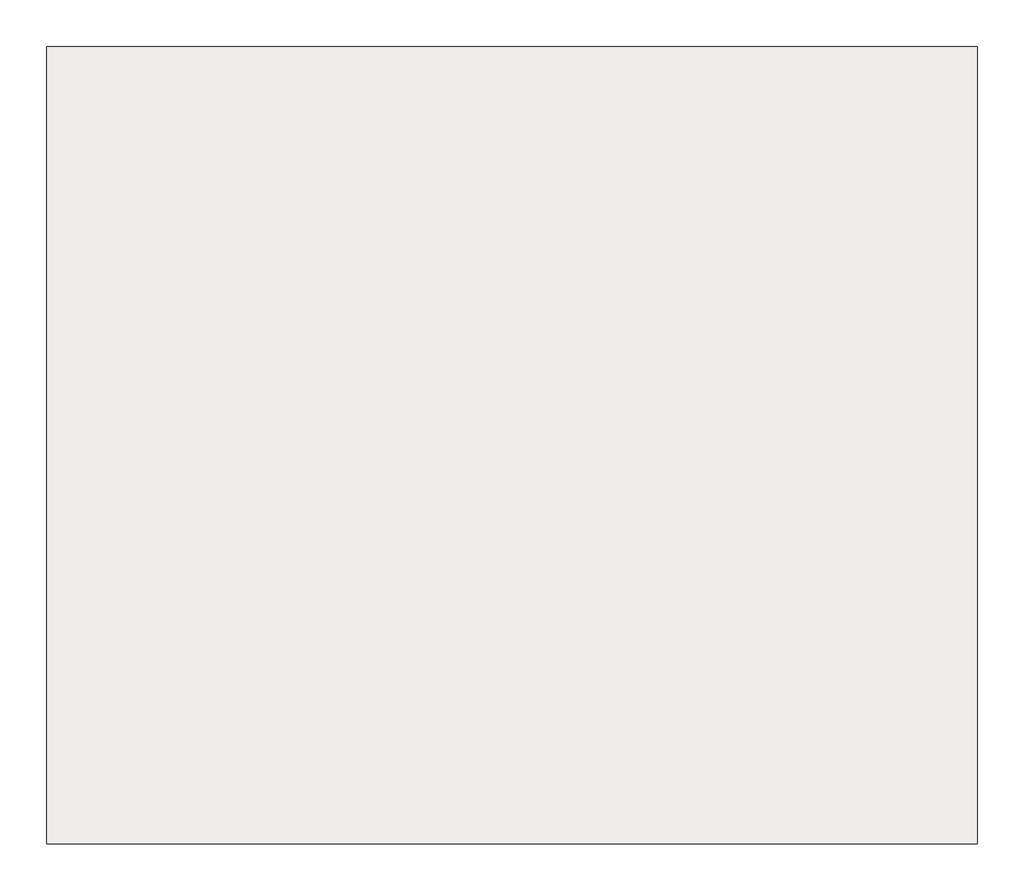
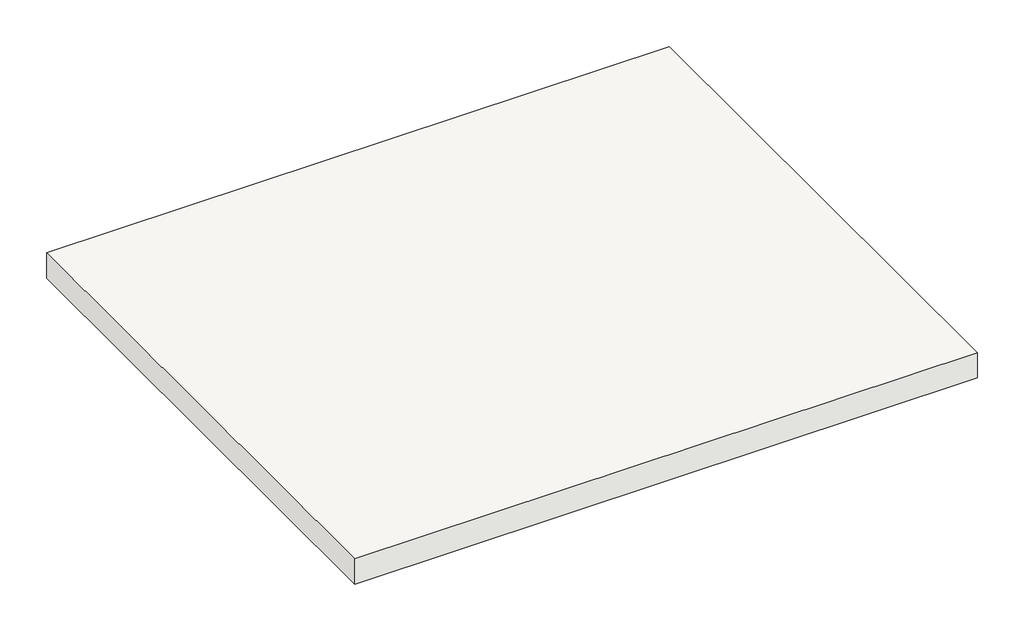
# One storey: 1 slab.
"""IFC4 building model written with IfcOpenShell, lengths in millimetres."""

from ifc_helpers import new_model, si_unit, frame, origin, place, context, project, spatial, polyline, outline, extrude, element, save

model = new_model("IFC4")

# Units and contexts
model_context = context("Model", 3, world=origin())
ifc_project = project(units=[si_unit("LENGTHUNIT", "METRE", prefix="MILLI")], contexts=[model_context])

# Site, building, storey
site = spatial("IfcSite", under=ifc_project)
building = spatial("IfcBuilding", under=site)
storey = spatial("IfcBuildingStorey", under=building, Name="Nível 2", Elevation=3000.0)

# Slab
placement = place(None, origin())
element("IfcSlab", 1, ObjectType="Genérico 150 mm", at=placement, inside=storey, context=model_context, shape_type="SweptSolid", body=[
    extrude(outline(polyline([(-4630.3970545, 4354.0704833), (-4630.3970545, 1354.0704833), (-8130.3970545, 1354.0704833), (-8130.3970545, 4354.0704833), (-4630.3970545, 4354.0704833)])), frame((0.0, 0.0, 2850.0), z_axis=(0.0, 0.0, 1.0), x_axis=(1.0, 0.0, 0.0)), (0.0, 0.0, 1.0), 150.0),
])

save(model, "model.ifc")
